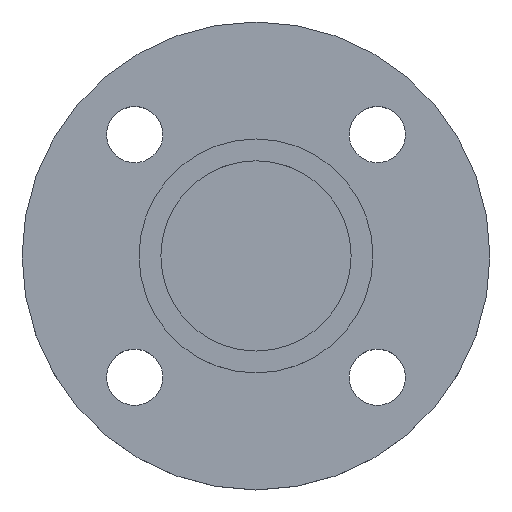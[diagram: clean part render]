
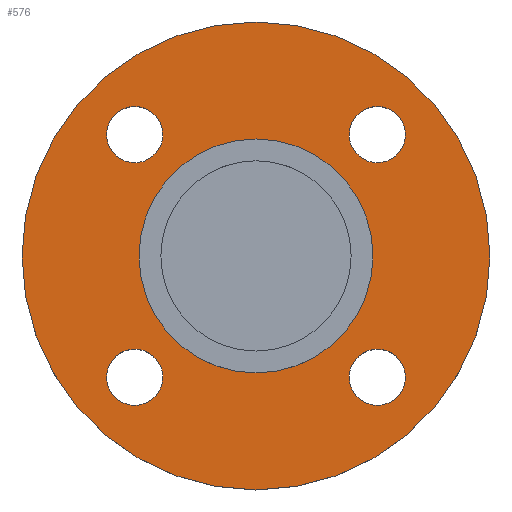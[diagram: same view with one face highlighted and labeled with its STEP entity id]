
A CAD part, top view. The second image highlights one B-rep face of the part: STEP entity #576.
In plain terms, the highlighted planar face has unit normal (0, 0, 1).
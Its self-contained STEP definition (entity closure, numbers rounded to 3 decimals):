
#10 = AXIS2_PLACEMENT_3D ( 'NONE', #607, #623, #624 ) ;
#11 = CIRCLE ( 'NONE', #10, 9. ) ;
#18 = CIRCLE ( 'NONE', #285, 9. ) ;
#21 = AXIS2_PLACEMENT_3D ( 'NONE', #268, #269, #270 ) ;
#45 = CIRCLE ( 'NONE', #54, 9. ) ;
#46 = EDGE_CURVE ( 'NONE', #544, #403, #11, .T. ) ;
#49 = AXIS2_PLACEMENT_3D ( 'NONE', #702, #703, #704 ) ;
#54 = AXIS2_PLACEMENT_3D ( 'NONE', #670, #677, #678 ) ;
#58 = AXIS2_PLACEMENT_3D ( 'NONE', #136, #138, #139 ) ;
#77 = CIRCLE ( 'NONE', #21, 9. ) ;
#136 = CARTESIAN_POINT ( 'NONE',  ( 38.891, -38.891, -4.5 ) ) ;
#138 = DIRECTION ( 'NONE',  ( 0., 0., -1. ) ) ;
#139 = DIRECTION ( 'NONE',  ( 1., 0., 0. ) ) ;
#157 = CARTESIAN_POINT ( 'NONE',  ( -29.891, 38.891, -4.5 ) ) ;
#159 = EDGE_CURVE ( 'NONE', #392, #370, #45, .T. ) ;
#179 = EDGE_CURVE ( 'NONE', #570, #547, #18, .T. ) ;
#197 = CARTESIAN_POINT ( 'NONE',  ( 47.891, 38.891, -4.5 ) ) ;
#200 = CIRCLE ( 'NONE', #203, 37.5 ) ;
#203 = AXIS2_PLACEMENT_3D ( 'NONE', #225, #311, #336 ) ;
#215 = AXIS2_PLACEMENT_3D ( 'NONE', #274, #313, #286 ) ;
#223 = CARTESIAN_POINT ( 'NONE',  ( -47.891, 38.891, -4.5 ) ) ;
#225 = CARTESIAN_POINT ( 'NONE',  ( 0., 0., -4.5 ) ) ;
#228 = CIRCLE ( 'NONE', #234, 75. ) ;
#230 = CARTESIAN_POINT ( 'NONE',  ( 47.891, -38.891, -4.5 ) ) ;
#232 = FACE_OUTER_BOUND ( 'NONE', #575, .T. ) ;
#233 = CARTESIAN_POINT ( 'NONE',  ( 29.891, -38.891, -4.5 ) ) ;
#234 = AXIS2_PLACEMENT_3D ( 'NONE', #376, #328, #356 ) ;
#236 = FACE_BOUND ( 'NONE', #484, .T. ) ;
#237 = EDGE_CURVE ( 'NONE', #370, #392, #291, .T. ) ;
#240 = CARTESIAN_POINT ( 'NONE',  ( -47.891, -38.891, -4.5 ) ) ;
#241 = CARTESIAN_POINT ( 'NONE',  ( -75., 0., -4.5 ) ) ;
#244 = CARTESIAN_POINT ( 'NONE',  ( 29.891, 38.891, -4.5 ) ) ;
#245 = AXIS2_PLACEMENT_3D ( 'NONE', #318, #335, #315 ) ;
#246 = CARTESIAN_POINT ( 'NONE',  ( -37.5, 0., -4.5 ) ) ;
#252 = CARTESIAN_POINT ( 'NONE',  ( -29.891, -38.891, -4.5 ) ) ;
#260 = CIRCLE ( 'NONE', #362, 37.5 ) ;
#262 = AXIS2_PLACEMENT_3D ( 'NONE', #305, #306, #322 ) ;
#267 = CIRCLE ( 'NONE', #262, 9. ) ;
#268 = CARTESIAN_POINT ( 'NONE',  ( -38.891, -38.891, -4.5 ) ) ;
#269 = DIRECTION ( 'NONE',  ( 0., 0., -1. ) ) ;
#270 = DIRECTION ( 'NONE',  ( 1., 0., 0. ) ) ;
#274 = CARTESIAN_POINT ( 'NONE',  ( 37.5, 0., -4.5 ) ) ;
#279 = CARTESIAN_POINT ( 'NONE',  ( 75., 0., -4.5 ) ) ;
#285 = AXIS2_PLACEMENT_3D ( 'NONE', #689, #690, #691 ) ;
#286 = DIRECTION ( 'NONE',  ( 1., 0., 0. ) ) ;
#288 = FACE_BOUND ( 'NONE', #571, .T. ) ;
#289 = FACE_BOUND ( 'NONE', #569, .T. ) ;
#291 = CIRCLE ( 'NONE', #49, 9. ) ;
#299 = CIRCLE ( 'NONE', #341, 75. ) ;
#305 = CARTESIAN_POINT ( 'NONE',  ( -38.891, -38.891, -4.5 ) ) ;
#306 = DIRECTION ( 'NONE',  ( 0., 0., -1. ) ) ;
#307 = DIRECTION ( 'NONE',  ( -1., 0., 0. ) ) ;
#310 = CIRCLE ( 'NONE', #58, 9. ) ;
#311 = DIRECTION ( 'NONE',  ( 0., 0., -1. ) ) ;
#312 = FACE_BOUND ( 'NONE', #560, .T. ) ;
#313 = DIRECTION ( 'NONE',  ( 0., 0., 1. ) ) ;
#315 = DIRECTION ( 'NONE',  ( 1., 0., 0. ) ) ;
#318 = CARTESIAN_POINT ( 'NONE',  ( 38.891, 38.891, -4.5 ) ) ;
#321 = CARTESIAN_POINT ( 'NONE',  ( 37.5, 0., -4.5 ) ) ;
#322 = DIRECTION ( 'NONE',  ( 1., 0., 0. ) ) ;
#323 = CARTESIAN_POINT ( 'NONE',  ( 0., 0., -4.5 ) ) ;
#325 = DIRECTION ( 'NONE',  ( -1., 0., 0. ) ) ;
#326 = CARTESIAN_POINT ( 'NONE',  ( 0., 0., -4.5 ) ) ;
#327 = DIRECTION ( 'NONE',  ( 0., 0., -1. ) ) ;
#328 = DIRECTION ( 'NONE',  ( 0., 0., -1. ) ) ;
#332 = PLANE ( 'NONE',  #215 ) ;
#335 = DIRECTION ( 'NONE',  ( 0., 0., -1. ) ) ;
#336 = DIRECTION ( 'NONE',  ( -1., 0., 0. ) ) ;
#338 = DIRECTION ( 'NONE',  ( 0., 0., -1. ) ) ;
#341 = AXIS2_PLACEMENT_3D ( 'NONE', #326, #338, #307 ) ;
#356 = DIRECTION ( 'NONE',  ( -1., 0., 0. ) ) ;
#361 = EDGE_CURVE ( 'NONE', #547, #570, #310, .T. ) ;
#362 = AXIS2_PLACEMENT_3D ( 'NONE', #323, #327, #325 ) ;
#363 = CIRCLE ( 'NONE', #245, 9. ) ;
#370 = VERTEX_POINT ( 'NONE', #157 ) ;
#376 = CARTESIAN_POINT ( 'NONE',  ( 0., 0., -4.5 ) ) ;
#392 = VERTEX_POINT ( 'NONE', #223 ) ;
#395 = VERTEX_POINT ( 'NONE', #240 ) ;
#399 = VERTEX_POINT ( 'NONE', #241 ) ;
#403 = VERTEX_POINT ( 'NONE', #244 ) ;
#404 = VERTEX_POINT ( 'NONE', #246 ) ;
#409 = VERTEX_POINT ( 'NONE', #252 ) ;
#411 = FACE_BOUND ( 'NONE', #583, .T. ) ;
#450 = EDGE_CURVE ( 'NONE', #395, #409, #77, .T. ) ;
#472 = ORIENTED_EDGE ( 'NONE', *, *, #361, .T. ) ;
#473 = ORIENTED_EDGE ( 'NONE', *, *, #179, .T. ) ;
#474 = ORIENTED_EDGE ( 'NONE', *, *, #499, .T. ) ;
#475 = ORIENTED_EDGE ( 'NONE', *, *, #450, .T. ) ;
#476 = ORIENTED_EDGE ( 'NONE', *, *, #237, .T. ) ;
#477 = ORIENTED_EDGE ( 'NONE', *, *, #159, .T. ) ;
#478 = ORIENTED_EDGE ( 'NONE', *, *, #46, .T. ) ;
#479 = ORIENTED_EDGE ( 'NONE', *, *, #528, .T. ) ;
#480 = ORIENTED_EDGE ( 'NONE', *, *, #580, .T. ) ;
#484 = EDGE_LOOP ( 'NONE', ( #472, #473 ) ) ;
#485 = ORIENTED_EDGE ( 'NONE', *, *, #522, .T. ) ;
#486 = ORIENTED_EDGE ( 'NONE', *, *, #618, .F. ) ;
#487 = ORIENTED_EDGE ( 'NONE', *, *, #604, .F. ) ;
#499 = EDGE_CURVE ( 'NONE', #409, #395, #267, .T. ) ;
#522 = EDGE_CURVE ( 'NONE', #574, #404, #260, .T. ) ;
#528 = EDGE_CURVE ( 'NONE', #403, #544, #363, .T. ) ;
#544 = VERTEX_POINT ( 'NONE', #197 ) ;
#547 = VERTEX_POINT ( 'NONE', #230 ) ;
#560 = EDGE_LOOP ( 'NONE', ( #476, #477 ) ) ;
#566 = VERTEX_POINT ( 'NONE', #279 ) ;
#569 = EDGE_LOOP ( 'NONE', ( #480, #485 ) ) ;
#570 = VERTEX_POINT ( 'NONE', #233 ) ;
#571 = EDGE_LOOP ( 'NONE', ( #478, #479 ) ) ;
#574 = VERTEX_POINT ( 'NONE', #321 ) ;
#575 = EDGE_LOOP ( 'NONE', ( #486, #487 ) ) ;
#576 = ADVANCED_FACE ( 'NONE', ( #236, #411, #312, #288, #289, #232 ), #332, .T. ) ;
#580 = EDGE_CURVE ( 'NONE', #404, #574, #200, .T. ) ;
#583 = EDGE_LOOP ( 'NONE', ( #474, #475 ) ) ;
#604 = EDGE_CURVE ( 'NONE', #399, #566, #228, .T. ) ;
#607 = CARTESIAN_POINT ( 'NONE',  ( 38.891, 38.891, -4.5 ) ) ;
#618 = EDGE_CURVE ( 'NONE', #566, #399, #299, .T. ) ;
#623 = DIRECTION ( 'NONE',  ( 0., 0., -1. ) ) ;
#624 = DIRECTION ( 'NONE',  ( 1., 0., 0. ) ) ;
#670 = CARTESIAN_POINT ( 'NONE',  ( -38.891, 38.891, -4.5 ) ) ;
#677 = DIRECTION ( 'NONE',  ( 0., 0., -1. ) ) ;
#678 = DIRECTION ( 'NONE',  ( 1., 0., 0. ) ) ;
#689 = CARTESIAN_POINT ( 'NONE',  ( 38.891, -38.891, -4.5 ) ) ;
#690 = DIRECTION ( 'NONE',  ( 0., 0., -1. ) ) ;
#691 = DIRECTION ( 'NONE',  ( 1., 0., 0. ) ) ;
#702 = CARTESIAN_POINT ( 'NONE',  ( -38.891, 38.891, -4.5 ) ) ;
#703 = DIRECTION ( 'NONE',  ( 0., 0., -1. ) ) ;
#704 = DIRECTION ( 'NONE',  ( 1., 0., 0. ) ) ;
